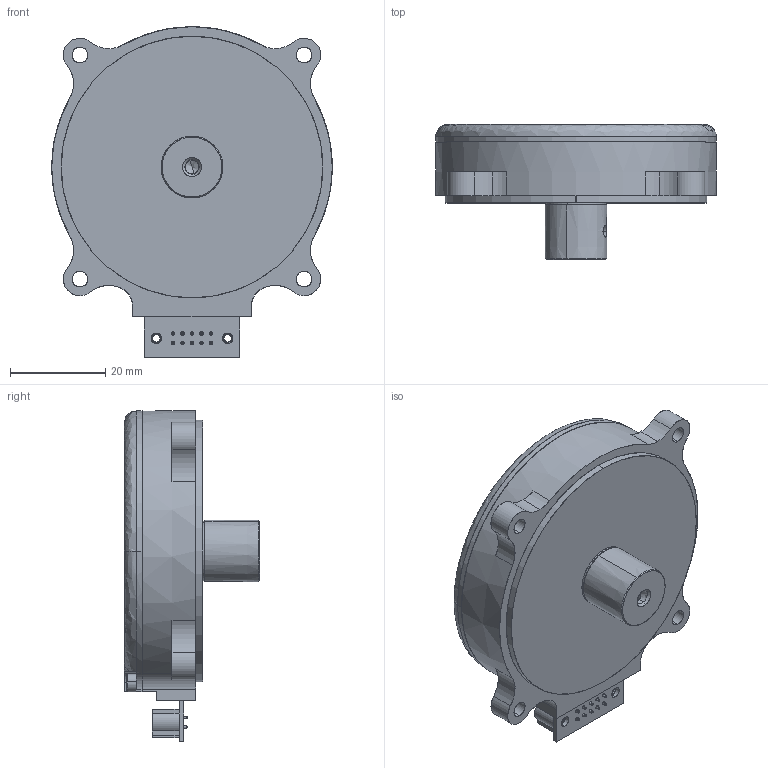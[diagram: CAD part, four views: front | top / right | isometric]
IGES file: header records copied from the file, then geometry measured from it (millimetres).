
Start section: SolidWorks IGES file using analytic representation for surfaces
Global section: file name: C:\Zettlex Data\Mechanical Drawings\1615\58mm Screw Mount 3.000mm Hub AC2 Rev 1-0.IGS; native system: SolidWorks 2017; preprocessor: SolidWorks 2017; author: Istvan; date: 180126.104123; units: millimetre
Bounding box: 59 x 28.42 x 69.5 mm (x, y, z)
Surface area: 17478.7 mm2 (no closed solid volume)
Topology: 0 solids, 0 shells, 774 faces, 9978 edges, 9968 vertices
Faces by surface type: bspline 424, revolution 350
